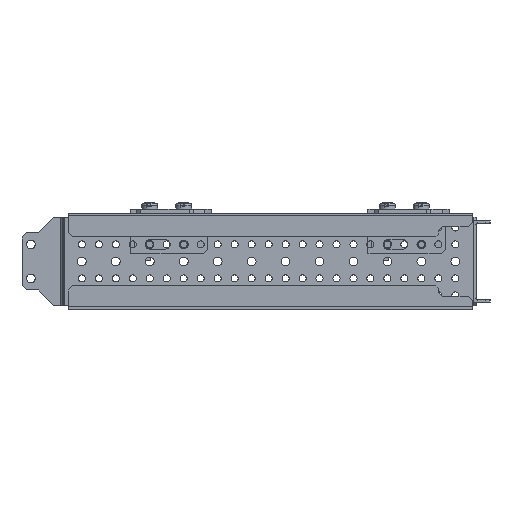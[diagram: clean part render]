
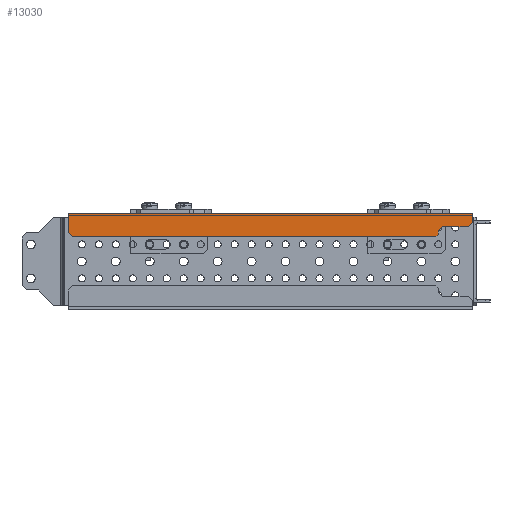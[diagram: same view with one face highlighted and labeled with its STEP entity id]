
A CAD part, front view. The second image highlights one B-rep face of the part: STEP entity #13030.
In plain terms, the highlighted planar face has unit normal (0, -1, 0) as drawn and (0, 1, 0) by its records, which use the part's own axes.
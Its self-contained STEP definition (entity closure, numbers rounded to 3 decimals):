
#4 = ORIENTED_EDGE ( 'NONE', *, *, #2221, .T. ) ;
#102 = VERTEX_POINT ( 'NONE', #14052 ) ;
#199 = ORIENTED_EDGE ( 'NONE', *, *, #6326, .T. ) ;
#281 = DIRECTION ( 'NONE',  ( 0., 0., -1. ) ) ;
#523 = PLANE ( 'NONE',  #3460 ) ;
#535 = ORIENTED_EDGE ( 'NONE', *, *, #4795, .T. ) ;
#765 = VECTOR ( 'NONE', #281, 1000. ) ;
#779 = VERTEX_POINT ( 'NONE', #13891 ) ;
#865 = LINE ( 'NONE', #6842, #8868 ) ;
#867 = CARTESIAN_POINT ( 'NONE',  ( -147.5, 279., -28.5 ) ) ;
#999 = VERTEX_POINT ( 'NONE', #1468 ) ;
#1399 = LINE ( 'NONE', #10339, #16734 ) ;
#1406 = LINE ( 'NONE', #8980, #10168 ) ;
#1468 = CARTESIAN_POINT ( 'NONE',  ( 124.989, 279., -20. ) ) ;
#1859 = DIRECTION ( 'NONE',  ( 1., 0., 0. ) ) ;
#2221 = EDGE_CURVE ( 'NONE', #14777, #779, #4908, .T. ) ;
#2434 = LINE ( 'NONE', #11278, #2732 ) ;
#2548 = EDGE_CURVE ( 'NONE', #5286, #18169, #2793, .T. ) ;
#2732 = VECTOR ( 'NONE', #6941, 1000. ) ;
#2793 = LINE ( 'NONE', #4273, #18688 ) ;
#2883 = CARTESIAN_POINT ( 'NONE',  ( 124.989, 279., -22.5 ) ) ;
#3460 = AXIS2_PLACEMENT_3D ( 'NONE', #4743, #12292, #4842 ) ;
#3465 = DIRECTION ( 'NONE',  ( 0., 0., -1. ) ) ;
#3515 = VERTEX_POINT ( 'NONE', #6350 ) ;
#3718 = EDGE_CURVE ( 'NONE', #999, #11484, #865, .T. ) ;
#3793 = DIRECTION ( 'NONE',  ( 0., 0., -1. ) ) ;
#4236 = ORIENTED_EDGE ( 'NONE', *, *, #3718, .T. ) ;
#4273 = CARTESIAN_POINT ( 'NONE',  ( 0., 279., -35.5 ) ) ;
#4743 = CARTESIAN_POINT ( 'NONE',  ( 146.989, 279., -28.5 ) ) ;
#4795 = EDGE_CURVE ( 'NONE', #779, #999, #8590, .T. ) ;
#4842 = DIRECTION ( 'NONE',  ( 0., 0., -1. ) ) ;
#4908 = LINE ( 'NONE', #14216, #6483 ) ;
#5199 = DIRECTION ( 'NONE',  ( 1., 0., 0. ) ) ;
#5279 = LINE ( 'NONE', #9604, #18226 ) ;
#5286 = VERTEX_POINT ( 'NONE', #5913 ) ;
#5331 = CARTESIAN_POINT ( 'NONE',  ( 149.989, 279., -28.5 ) ) ;
#5625 = DIRECTION ( 'NONE',  ( 0., 0., -1. ) ) ;
#5913 = CARTESIAN_POINT ( 'NONE',  ( 149.989, 279., -35.5 ) ) ;
#6027 = CARTESIAN_POINT ( 'NONE',  ( -147.5, 279., -21. ) ) ;
#6262 = CARTESIAN_POINT ( 'NONE',  ( -147.5, 279., -35.5 ) ) ;
#6326 = EDGE_CURVE ( 'NONE', #13342, #3515, #17260, .T. ) ;
#6350 = CARTESIAN_POINT ( 'NONE',  ( 149.989, 279., -32.5 ) ) ;
#6483 = VECTOR ( 'NONE', #5199, 1000. ) ;
#6842 = CARTESIAN_POINT ( 'NONE',  ( 124.989, 279., -28.5 ) ) ;
#6941 = DIRECTION ( 'NONE',  ( 0.707, 0., -0.707 ) ) ;
#7011 = DIRECTION ( 'NONE',  ( -1., 0., 0. ) ) ;
#7083 = ORIENTED_EDGE ( 'NONE', *, *, #16470, .T. ) ;
#7162 = VECTOR ( 'NONE', #11444, 1000. ) ;
#7511 = ORIENTED_EDGE ( 'NONE', *, *, #17518, .T. ) ;
#7813 = EDGE_CURVE ( 'NONE', #3515, #5286, #1399, .T. ) ;
#8022 = ORIENTED_EDGE ( 'NONE', *, *, #2548, .T. ) ;
#8397 = EDGE_CURVE ( 'NONE', #18956, #13342, #5279, .T. ) ;
#8590 = LINE ( 'NONE', #14474, #11428 ) ;
#8868 = VECTOR ( 'NONE', #3793, 1000. ) ;
#8895 = ORIENTED_EDGE ( 'NONE', *, *, #11353, .T. ) ;
#8980 = CARTESIAN_POINT ( 'NONE',  ( 146.989, 279., -25.5 ) ) ;
#9081 = EDGE_CURVE ( 'NONE', #13554, #18956, #1406, .T. ) ;
#9604 = CARTESIAN_POINT ( 'NONE',  ( 148.489, 279., -27. ) ) ;
#10168 = VECTOR ( 'NONE', #1859, 1000. ) ;
#10187 = LINE ( 'NONE', #867, #14286 ) ;
#10339 = CARTESIAN_POINT ( 'NONE',  ( 149.989, 279., -32.5 ) ) ;
#10753 = VECTOR ( 'NONE', #3465, 1000. ) ;
#10989 = LINE ( 'NONE', #13732, #765 ) ;
#11274 = DIRECTION ( 'NONE',  ( 0.707, 0., -0.707 ) ) ;
#11278 = CARTESIAN_POINT ( 'NONE',  ( 124.989, 279., -22.5 ) ) ;
#11353 = EDGE_CURVE ( 'NONE', #14136, #14777, #12907, .T. ) ;
#11428 = VECTOR ( 'NONE', #17775, 1000. ) ;
#11444 = DIRECTION ( 'NONE',  ( 0.8, 0., 0.6 ) ) ;
#11484 = VERTEX_POINT ( 'NONE', #2883 ) ;
#11705 = CARTESIAN_POINT ( 'NONE',  ( 149.989, 279., -28.5 ) ) ;
#12292 = DIRECTION ( 'NONE',  ( 0., 1., 0. ) ) ;
#12907 = LINE ( 'NONE', #18859, #7162 ) ;
#13030 = ADVANCED_FACE ( 'NONE', ( #15126 ), #523, .T. ) ;
#13037 = ORIENTED_EDGE ( 'NONE', *, *, #7813, .T. ) ;
#13342 = VERTEX_POINT ( 'NONE', #11705 ) ;
#13554 = VERTEX_POINT ( 'NONE', #14230 ) ;
#13732 = CARTESIAN_POINT ( 'NONE',  ( -147.5, 279., -28.5 ) ) ;
#13891 = CARTESIAN_POINT ( 'NONE',  ( 122.989, 279., -18. ) ) ;
#14052 = CARTESIAN_POINT ( 'NONE',  ( -147.5, 279., -32.5 ) ) ;
#14136 = VERTEX_POINT ( 'NONE', #6027 ) ;
#14216 = CARTESIAN_POINT ( 'NONE',  ( 146.989, 279., -18. ) ) ;
#14230 = CARTESIAN_POINT ( 'NONE',  ( 127.989, 279., -25.5 ) ) ;
#14286 = VECTOR ( 'NONE', #14694, 1000. ) ;
#14465 = EDGE_LOOP ( 'NONE', ( #19137, #16555, #199, #13037, #8022, #17062, #7083, #8895, #4, #535, #4236, #7511 ) ) ;
#14474 = CARTESIAN_POINT ( 'NONE',  ( 140.239, 279., -35.25 ) ) ;
#14694 = DIRECTION ( 'NONE',  ( 0., 0., 1. ) ) ;
#14777 = VERTEX_POINT ( 'NONE', #17049 ) ;
#15126 = FACE_OUTER_BOUND ( 'NONE', #14465, .T. ) ;
#15198 = EDGE_CURVE ( 'NONE', #102, #18169, #10989, .T. ) ;
#16470 = EDGE_CURVE ( 'NONE', #102, #14136, #10187, .T. ) ;
#16555 = ORIENTED_EDGE ( 'NONE', *, *, #8397, .T. ) ;
#16734 = VECTOR ( 'NONE', #5625, 1000. ) ;
#17049 = CARTESIAN_POINT ( 'NONE',  ( -143.5, 279., -18. ) ) ;
#17062 = ORIENTED_EDGE ( 'NONE', *, *, #15198, .F. ) ;
#17260 = LINE ( 'NONE', #5331, #10753 ) ;
#17518 = EDGE_CURVE ( 'NONE', #11484, #13554, #2434, .T. ) ;
#17775 = DIRECTION ( 'NONE',  ( 0.707, 0., -0.707 ) ) ;
#18169 = VERTEX_POINT ( 'NONE', #6262 ) ;
#18226 = VECTOR ( 'NONE', #11274, 1000. ) ;
#18688 = VECTOR ( 'NONE', #7011, 1000. ) ;
#18859 = CARTESIAN_POINT ( 'NONE',  ( 37.373, 279., 117.655 ) ) ;
#18956 = VERTEX_POINT ( 'NONE', #19193 ) ;
#19137 = ORIENTED_EDGE ( 'NONE', *, *, #9081, .T. ) ;
#19193 = CARTESIAN_POINT ( 'NONE',  ( 146.989, 279., -25.5 ) ) ;
